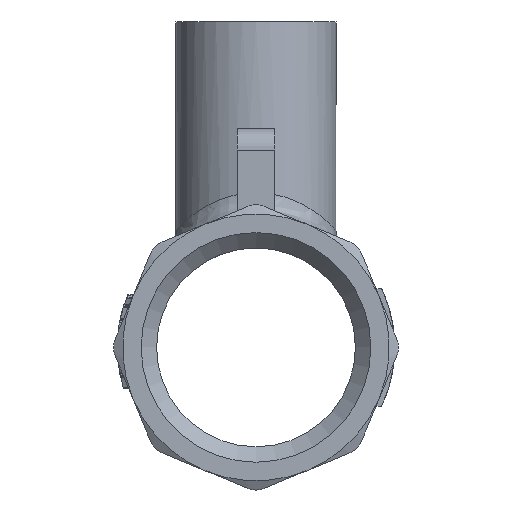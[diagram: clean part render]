
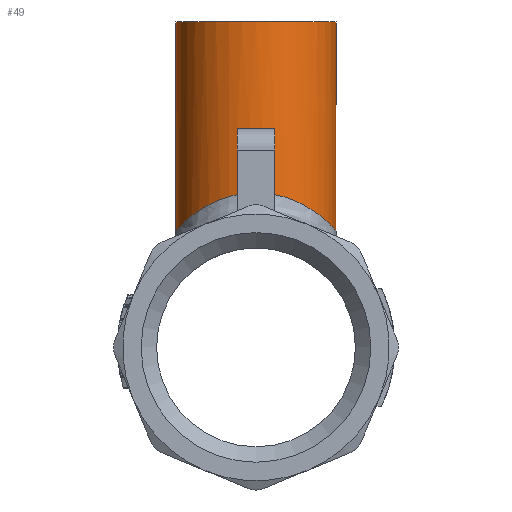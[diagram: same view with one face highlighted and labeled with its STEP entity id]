
A CAD part, front view. The second image highlights one B-rep face of the part: STEP entity #49.
In plain terms, the highlighted cylindrical face has radius 7.5 mm (diameter 15 mm), a full revolution.
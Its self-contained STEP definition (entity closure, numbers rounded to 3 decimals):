
#49=ADVANCED_FACE('',(#278,#280),#282,.T.);
#278=FACE_BOUND('',#279,.T.);
#279=EDGE_LOOP('',(#1852,#1853,#1854,#1855,#1856));
#280=FACE_OUTER_BOUND('',#281,.T.);
#281=EDGE_LOOP('',(#1857));
#282=CYLINDRICAL_SURFACE('',#283,7.5);
#283=AXIS2_PLACEMENT_3D('',#284,#285,#286);
#284=CARTESIAN_POINT('',(0.,0.,0.));
#285=DIRECTION('',(0.,0.,1.));
#286=DIRECTION('',(-1.,0.,0.));
#1852=ORIENTED_EDGE('',*,*,#2999,.F.);
#1853=ORIENTED_EDGE('',*,*,#3000,.T.);
#1854=ORIENTED_EDGE('',*,*,#3001,.T.);
#1855=ORIENTED_EDGE('',*,*,#3002,.F.);
#1856=ORIENTED_EDGE('',*,*,#3003,.F.);
#1857=ORIENTED_EDGE('',*,*,#2992,.F.);
#2992=EDGE_CURVE('',#3482,#3482,#3483,.T.);
#2999=EDGE_CURVE('',#3496,#3497,#3498,.T.);
#3000=EDGE_CURVE('',#3496,#3499,#3500,.T.);
#3001=EDGE_CURVE('',#3499,#3501,#3502,.T.);
#3002=EDGE_CURVE('',#3503,#3501,#3504,.F.);
#3003=EDGE_CURVE('',#3497,#3503,#3505,.F.);
#3482=VERTEX_POINT('',#4365);
#3483=CIRCLE('',#4366,7.5);
#3496=VERTEX_POINT('',#4400);
#3497=VERTEX_POINT('',#4401);
#3498=LINE('',#4402,#4403);
#3499=VERTEX_POINT('',#4405);
#3500=B_SPLINE_CURVE_WITH_KNOTS('',3,
(#4406,#4407,#4408,#4409,#4410,#4411,#4412,#4413,#4414,#4415,#4416,#4417,#4418,#4419,
#4420,#4421,#4422,#4423,#4424,#4425,#4426,#4427,#4428,#4429,#4430,#4431,#4432,#4433,
#4434,#4435,#4436,#4437,#4438,#4439,#4440,#4441,#4442,#4443,#4444,#4445,#4446,#4447,
#4448,#4449,#4450,#4451,#4452,#4453,#4454,#4455,#4456,#4457,#4458),
.UNSPECIFIED.,.F.,.F.,
(4,1,1,1,1,1,1,1,1,1,1,1,1,1,1,1,1,1,1,1,1,1,1,1,1,1,1,1,1,1,1,1,1,1,1,1,1,1,1,1,
1,1,1,1,1,1,1,1,1,1,4),
(0.,0.03,0.055,0.077,0.1,0.123,
0.147,0.17,0.192,0.213,0.235,
0.255,0.274,0.291,0.308,0.325,
0.343,0.362,0.383,0.405,0.425,
0.446,0.467,0.489,0.511,0.533,
0.551,0.57,0.589,0.608,0.626,
0.64,0.653,0.665,0.679,0.696,
0.713,0.73,0.749,0.77,0.794,
0.817,0.844,0.871,0.897,0.922,
0.943,0.962,0.98,0.993,1.),
.UNSPECIFIED.);
#3501=VERTEX_POINT('',#4459);
#3502=B_SPLINE_CURVE_WITH_KNOTS('',3,
(#4460,#4461,#4462,#4463,#4464,#4465,#4466,#4467,#4468,#4469,#4470,#4471,#4472,#4473,
#4474,#4475,#4476,#4477,#4478,#4479),
.UNSPECIFIED.,.F.,.F.,
(4,1,1,1,1,1,1,1,1,1,1,1,1,1,1,1,1,4),
(0.,0.067,0.13,0.19,0.248,0.307,
0.375,0.441,0.505,0.564,0.62,
0.677,0.731,0.783,0.833,0.882,
0.939,1.),
.UNSPECIFIED.);
#3503=VERTEX_POINT('',#4480);
#3504=LINE('',#4481,#4482);
#3505=CIRCLE('',#4484,7.5);
#4365=CARTESIAN_POINT('',(-7.5,0.,30.5));
#4366=AXIS2_PLACEMENT_3D('',#4367,#4368,#4369);
#4367=CARTESIAN_POINT('',(0.,0.,30.5));
#4368=DIRECTION('',(0.,0.,1.));
#4369=DIRECTION('',(-1.,0.,0.));
#4400=CARTESIAN_POINT('',(1.75,-7.293,14.33));
#4401=CARTESIAN_POINT('',(1.75,-7.293,20.5));
#4402=CARTESIAN_POINT('',(1.75,-7.293,14.33));
#4403=VECTOR('',#4404,1.);
#4404=DIRECTION('',(0.,0.,1.));
#4405=CARTESIAN_POINT('',(-7.5,0.,10.954));
#4406=CARTESIAN_POINT('',(1.75,-7.293,14.33));
#4407=CARTESIAN_POINT('',(2.096,-7.21,14.266));
#4408=CARTESIAN_POINT('',(2.72,-7.012,14.099));
#4409=CARTESIAN_POINT('',(3.522,-6.638,13.808));
#4410=CARTESIAN_POINT('',(4.195,-6.231,13.5));
#4411=CARTESIAN_POINT('',(4.794,-5.785,13.176));
#4412=CARTESIAN_POINT('',(5.356,-5.268,12.823));
#4413=CARTESIAN_POINT('',(5.858,-4.703,12.463));
#4414=CARTESIAN_POINT('',(6.289,-4.108,12.121));
#4415=CARTESIAN_POINT('',(6.649,-3.494,11.807));
#4416=CARTESIAN_POINT('',(6.946,-2.858,11.528));
#4417=CARTESIAN_POINT('',(7.179,-2.205,11.295));
#4418=CARTESIAN_POINT('',(7.346,-1.557,11.121));
#4419=CARTESIAN_POINT('',(7.449,-0.938,11.01));
#4420=CARTESIAN_POINT('',(7.499,-0.346,10.955));
#4421=CARTESIAN_POINT('',(7.504,0.229,10.95));
#4422=CARTESIAN_POINT('',(7.463,0.814,10.995));
#4423=CARTESIAN_POINT('',(7.374,1.418,11.092));
#4424=CARTESIAN_POINT('',(7.225,2.05,11.249));
#4425=CARTESIAN_POINT('',(7.011,2.694,11.465));
#4426=CARTESIAN_POINT('',(6.736,3.322,11.727));
#4427=CARTESIAN_POINT('',(6.409,3.914,12.018));
#4428=CARTESIAN_POINT('',(6.038,4.465,12.324));
#4429=CARTESIAN_POINT('',(5.607,4.998,12.648));
#4430=CARTESIAN_POINT('',(5.115,5.501,12.979));
#4431=CARTESIAN_POINT('',(4.561,5.968,13.307));
#4432=CARTESIAN_POINT('',(3.991,6.362,13.598));
#4433=CARTESIAN_POINT('',(3.409,6.691,13.849));
#4434=CARTESIAN_POINT('',(2.823,6.958,14.059));
#4435=CARTESIAN_POINT('',(2.194,7.183,14.239));
#4436=CARTESIAN_POINT('',(1.547,7.349,14.375));
#4437=CARTESIAN_POINT('',(0.932,7.45,14.458));
#4438=CARTESIAN_POINT('',(0.393,7.495,14.496));
#4439=CARTESIAN_POINT('',(-0.082,7.504,14.503));
#4440=CARTESIAN_POINT('',(-0.555,7.485,14.487));
#4441=CARTESIAN_POINT('',(-1.074,7.43,14.442));
#4442=CARTESIAN_POINT('',(-1.638,7.327,14.357));
#4443=CARTESIAN_POINT('',(-2.221,7.172,14.231));
#4444=CARTESIAN_POINT('',(-2.818,6.96,14.061));
#4445=CARTESIAN_POINT('',(-3.416,6.689,13.847));
#4446=CARTESIAN_POINT('',(-4.041,6.333,13.576));
#4447=CARTESIAN_POINT('',(-4.657,5.897,13.255));
#4448=CARTESIAN_POINT('',(-5.266,5.361,12.884));
#4449=CARTESIAN_POINT('',(-5.829,4.746,12.488));
#4450=CARTESIAN_POINT('',(-6.328,4.056,12.09));
#4451=CARTESIAN_POINT('',(-6.739,3.326,11.726));
#4452=CARTESIAN_POINT('',(-7.048,2.602,11.428));
#4453=CARTESIAN_POINT('',(-7.262,1.915,11.21));
#4454=CARTESIAN_POINT('',(-7.398,1.282,11.065));
#4455=CARTESIAN_POINT('',(-7.47,0.733,10.987));
#4456=CARTESIAN_POINT('',(-7.496,0.309,10.959));
#4457=CARTESIAN_POINT('',(-7.5,0.084,10.954));
#4458=CARTESIAN_POINT('',(-7.5,0.,10.954));
#4459=CARTESIAN_POINT('',(-1.75,-7.293,14.33));
#4460=CARTESIAN_POINT('',(-7.5,0.,10.954));
#4461=CARTESIAN_POINT('',(-7.5,-0.228,10.954));
#4462=CARTESIAN_POINT('',(-7.48,-0.67,10.977));
#4463=CARTESIAN_POINT('',(-7.394,-1.305,11.07));
#4464=CARTESIAN_POINT('',(-7.264,-1.895,11.207));
#4465=CARTESIAN_POINT('',(-7.095,-2.454,11.38));
#4466=CARTESIAN_POINT('',(-6.875,-3.02,11.596));
#4467=CARTESIAN_POINT('',(-6.6,-3.583,11.851));
#4468=CARTESIAN_POINT('',(-6.27,-4.132,12.135));
#4469=CARTESIAN_POINT('',(-5.914,-4.625,12.419));
#4470=CARTESIAN_POINT('',(-5.538,-5.068,12.694));
#4471=CARTESIAN_POINT('',(-5.144,-5.467,12.958));
#4472=CARTESIAN_POINT('',(-4.729,-5.83,13.209));
#4473=CARTESIAN_POINT('',(-4.297,-6.155,13.444));
#4474=CARTESIAN_POINT('',(-3.855,-6.44,13.657));
#4475=CARTESIAN_POINT('',(-3.405,-6.689,13.848));
#4476=CARTESIAN_POINT('',(-2.917,-6.917,14.027));
#4477=CARTESIAN_POINT('',(-2.369,-7.125,14.192));
#4478=CARTESIAN_POINT('',(-1.965,-7.241,14.289));
#4479=CARTESIAN_POINT('',(-1.75,-7.293,14.33));
#4480=CARTESIAN_POINT('',(-1.75,-7.293,20.5));
#4481=CARTESIAN_POINT('',(-1.75,-7.293,14.33));
#4482=VECTOR('',#4483,1.);
#4483=DIRECTION('',(0.,0.,1.));
#4484=AXIS2_PLACEMENT_3D('',#4485,#4486,#4487);
#4485=CARTESIAN_POINT('',(0.,0.,20.5));
#4486=DIRECTION('',(0.,0.,1.));
#4487=DIRECTION('',(-0.233,-0.972,0.));
